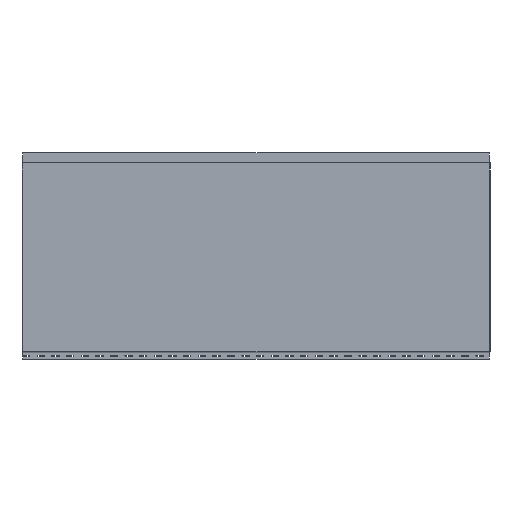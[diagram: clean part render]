
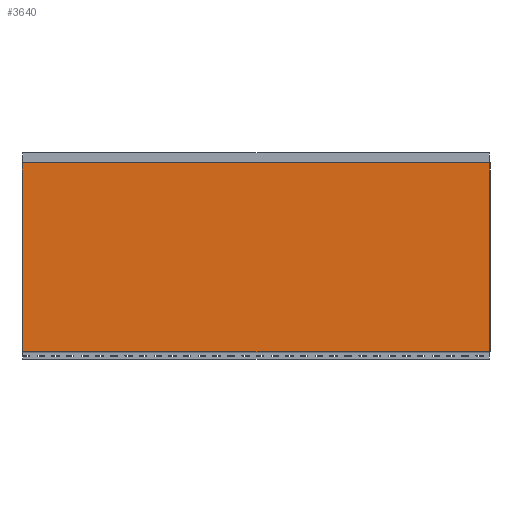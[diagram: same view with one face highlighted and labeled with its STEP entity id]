
A CAD part, front view. The second image highlights one B-rep face of the part: STEP entity #3640.
In plain terms, the highlighted planar face has unit normal (0, -1, 0).
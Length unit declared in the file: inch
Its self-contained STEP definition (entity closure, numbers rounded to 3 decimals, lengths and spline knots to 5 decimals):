
#153=PLANE('',#3991);
#321=FACE_OUTER_BOUND('',#565,.T.);
#565=EDGE_LOOP('',(#3214,#3215,#3216,#3217,#3218,#3219,#3220,#3221));
#1064=LINE('',#5992,#1424);
#1065=LINE('',#5995,#1425);
#1066=LINE('',#5997,#1426);
#1067=LINE('',#5999,#1427);
#1068=LINE('',#6001,#1428);
#1069=LINE('',#6002,#1429);
#1070=LINE('',#6004,#1430);
#1071=LINE('',#6005,#1431);
#1424=VECTOR('',#4926,39.37008);
#1425=VECTOR('',#4929,39.37008);
#1426=VECTOR('',#4930,39.37008);
#1427=VECTOR('',#4931,39.37008);
#1428=VECTOR('',#4932,39.37008);
#1429=VECTOR('',#4933,39.37008);
#1430=VECTOR('',#4934,39.37008);
#1431=VECTOR('',#4935,39.37008);
#1747=VERTEX_POINT('',#5873);
#1773=VERTEX_POINT('',#5947);
#1789=VERTEX_POINT('',#5990);
#1790=VERTEX_POINT('',#5994);
#1791=VERTEX_POINT('',#5996);
#1792=VERTEX_POINT('',#5998);
#1793=VERTEX_POINT('',#6000);
#1794=VERTEX_POINT('',#6003);
#2278=EDGE_CURVE('',#1773,#1789,#1064,.T.);
#2279=EDGE_CURVE('',#1790,#1747,#1065,.T.);
#2280=EDGE_CURVE('',#1791,#1747,#1066,.T.);
#2281=EDGE_CURVE('',#1791,#1792,#1067,.T.);
#2282=EDGE_CURVE('',#1793,#1792,#1068,.T.);
#2283=EDGE_CURVE('',#1773,#1793,#1069,.T.);
#2284=EDGE_CURVE('',#1794,#1789,#1070,.T.);
#2285=EDGE_CURVE('',#1794,#1790,#1071,.T.);
#3214=ORIENTED_EDGE('',*,*,#2279,.T.);
#3215=ORIENTED_EDGE('',*,*,#2280,.F.);
#3216=ORIENTED_EDGE('',*,*,#2281,.T.);
#3217=ORIENTED_EDGE('',*,*,#2282,.F.);
#3218=ORIENTED_EDGE('',*,*,#2283,.F.);
#3219=ORIENTED_EDGE('',*,*,#2278,.T.);
#3220=ORIENTED_EDGE('',*,*,#2284,.F.);
#3221=ORIENTED_EDGE('',*,*,#2285,.T.);
#3640=ADVANCED_FACE('',(#321),#153,.T.);
#3991=AXIS2_PLACEMENT_3D('',#5993,#4927,#4928);
#4926=DIRECTION('',(-1.,0.,0.));
#4927=DIRECTION('center_axis',(0.,-1.,0.));
#4928=DIRECTION('ref_axis',(0.,0.,-1.));
#4929=DIRECTION('',(1.,0.,0.));
#4930=DIRECTION('',(-1.,0.,0.));
#4931=DIRECTION('',(1.,0.,0.));
#4932=DIRECTION('',(0.,0.,-1.));
#4933=DIRECTION('',(1.,0.,0.));
#4934=DIRECTION('',(1.,0.,0.));
#4935=DIRECTION('',(0.,0.,-1.));
#5873=CARTESIAN_POINT('',(193.89375,7.02361,78.7964));
#5947=CARTESIAN_POINT('',(241.76875,7.02361,98.1804));
#5990=CARTESIAN_POINT('',(193.89375,7.02361,98.1804));
#5992=CARTESIAN_POINT('',(241.76875,7.02361,98.1804));
#5993=CARTESIAN_POINT('Origin',(241.76875,7.02361,78.7964));
#5994=CARTESIAN_POINT('',(193.88225,7.02361,78.7964));
#5995=CARTESIAN_POINT('',(193.88225,7.02361,78.7964));
#5996=CARTESIAN_POINT('',(241.76875,7.02361,78.7964));
#5997=CARTESIAN_POINT('',(241.76875,7.02361,78.7964));
#5998=CARTESIAN_POINT('',(241.78025,7.02361,78.7964));
#5999=CARTESIAN_POINT('',(241.78025,7.02361,78.7964));
#6000=CARTESIAN_POINT('',(241.78025,7.02361,98.1804));
#6001=CARTESIAN_POINT('',(241.78025,7.02361,98.1804));
#6002=CARTESIAN_POINT('',(241.78025,7.02361,98.1804));
#6003=CARTESIAN_POINT('',(193.88225,7.02361,98.1804));
#6004=CARTESIAN_POINT('',(193.88225,7.02361,98.1804));
#6005=CARTESIAN_POINT('',(193.88225,7.02361,98.1804));
